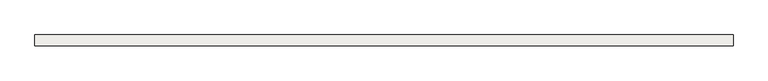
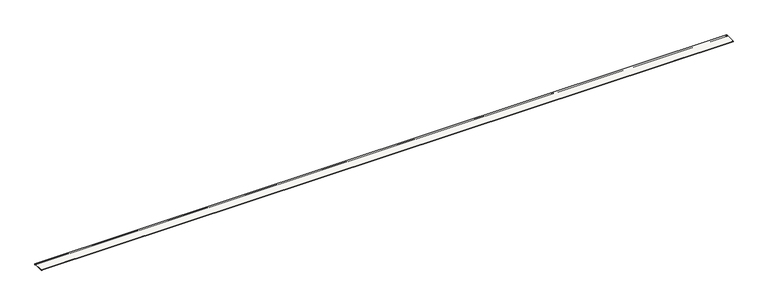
"""IFC4 building model written with IfcOpenShell, lengths in millimetres: slab geometry, ROSA GRES_L62 : Pieza L62_Pietro_White_Anti-Slip."""

from ifc_helpers import new_model, si_unit, point, frame, frame_2d, origin, place, context, project, spatial, polyline, circle_curve, trimmed, segment, composite_curve, outline, extrude, source, transform, mapped, element, save


def slab_eb0ea626(model_context):
    return source(origin(), model_context, "Body", "SweptSolid", [
        extrude(outline(composite_curve([segment(trimmed(circle_curve(frame_2d((-12.1001991, -35.1001991)), 1.8998009), [point((-12.1001991, -37.0))], [point((-14.0, -35.1001991))], False, "CARTESIAN"), True, "CONTINUOUS"), segment(polyline([(-14.0, -35.1001991), (-14.0, -16.5836242)]), True, "CONTINUOUS"), segment(trimmed(circle_curve(frame_2d((-16.6422322, -16.5836242)), 2.6422322), [point((-14.0, -16.5836242))], [point((-16.6422322, -13.9413919))], True, "CARTESIAN"), True, "CONTINUOUS"), segment(polyline([(-16.6422322, -13.9413919), (-315.5234432, -13.9413919)]), True, "CONTINUOUS"), segment(trimmed(circle_curve(frame_2d((-315.5234432, -12.4648352)), 1.4765568), [point((-315.5234432, -13.9413919))], [point((-317.0, -12.4648352))], False, "CARTESIAN"), True, "CONTINUOUS"), segment(polyline([(-317.0, -12.4648352), (-317.0, -2.5), (-315.5, 0.0), (-2.5, 0.0), (0.0, -2.5), (0.0, -34.5)]), True, "CONTINUOUS"), segment(trimmed(circle_curve(frame_2d((-2.5, -34.5)), 2.5), [point((0.0, -34.5))], [point((-2.5, -37.0))], False, "CARTESIAN"), True, "CONTINUOUS"), segment(polyline([(-2.5, -37.0), (-5.422949, -37.0)]), True, "CONTINUOUS"), segment(trimmed(circle_curve(frame_2d((-7.4142134, -37.0)), 1.9912643), [point((-5.422949, -37.0))], [point((-9.4054777, -37.0))], True, "CARTESIAN"), True, "CONTINUOUS"), segment(polyline([(-9.4054777, -37.0), (-12.1001991, -37.0)]), True, "CONTINUOUS")], self_intersect=False)), frame((0.0, 0.0, 0.0), z_axis=(1.0, 0.0, 0.0), x_axis=(0.0, 1.0, 0.0)), (0.0, 0.0, 1.0), 20380.0),
    ])


if __name__ == "__main__":
    model = new_model("IFC4")
    model_context = context("Model", 3, world=origin())
    ifc_project = project(units=[si_unit("LENGTHUNIT", "METRE", prefix="MILLI")], contexts=[model_context])
    site = spatial("IfcSite", under=ifc_project)
    building = spatial("IfcBuilding", under=site)
    placement = place(None, origin())
    slab_shape = slab_eb0ea626(model_context)
    element("IfcSlab", 1, ObjectType="ROSA GRES_L62 : Pieza L62_Pietro_White_Anti-Slip", at=placement, inside=building, context=model_context, shape_type="MappedRepresentation", body=[
        mapped(slab_shape, transform((0.0, 0.0, 0.0), x_axis=(1.0, 0.0, 0.0), y_axis=(0.0, 1.0, 0.0), z_axis=(0.0, 0.0, 1.0))),
    ])
    save(model, "model.ifc")
